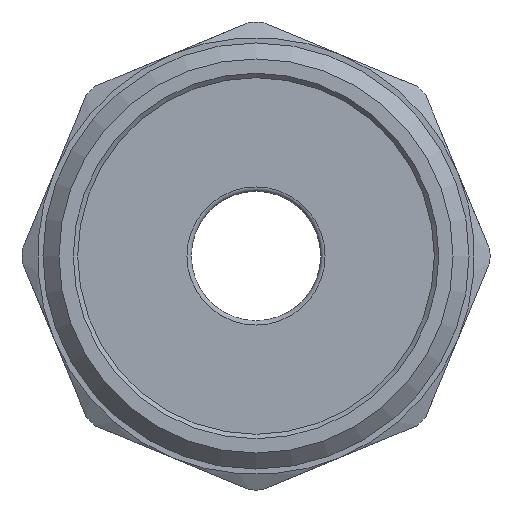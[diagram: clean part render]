
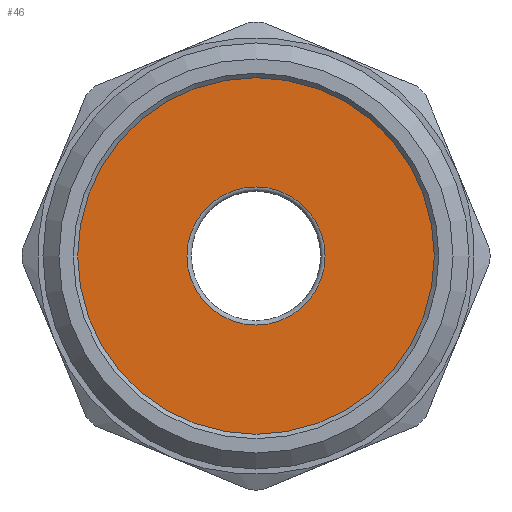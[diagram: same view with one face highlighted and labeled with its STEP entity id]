
A CAD part, front view. The second image highlights one B-rep face of the part: STEP entity #46.
In plain terms, the highlighted planar face has unit normal (0, -1, 0).
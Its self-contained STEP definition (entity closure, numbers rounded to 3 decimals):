
#46=ADVANCED_FACE('',(#106,#108),#110,.T.);
#106=FACE_BOUND('',#107,.T.);
#107=EDGE_LOOP('',(#428));
#108=FACE_BOUND('',#109,.T.);
#109=EDGE_LOOP('',(#429));
#110=PLANE('',#111);
#111=AXIS2_PLACEMENT_3D('',#112,#113,#114);
#112=CARTESIAN_POINT('',(0.,2.,0.));
#113=DIRECTION('',(0.,-1.,0.));
#114=DIRECTION('',(0.,0.,-1.));
#428=ORIENTED_EDGE('',*,*,#606,.T.);
#429=ORIENTED_EDGE('',*,*,#607,.F.);
#606=EDGE_CURVE('',#699,#699,#700,.T.);
#607=EDGE_CURVE('',#701,#701,#702,.F.);
#699=VERTEX_POINT('',#859);
#700=CIRCLE('',#860,20.);
#701=VERTEX_POINT('',#864);
#702=CIRCLE('',#865,7.75);
#859=CARTESIAN_POINT('',(0.,2.,-20.));
#860=AXIS2_PLACEMENT_3D('',#861,#862,#863);
#861=CARTESIAN_POINT('',(0.,2.,0.));
#862=DIRECTION('',(0.,-1.,0.));
#863=DIRECTION('',(0.,0.,-1.));
#864=CARTESIAN_POINT('',(-7.75,2.,0.));
#865=AXIS2_PLACEMENT_3D('',#866,#867,#868);
#866=CARTESIAN_POINT('',(0.,2.,0.));
#867=DIRECTION('',(0.,1.,0.));
#868=DIRECTION('',(-1.,0.,0.));
